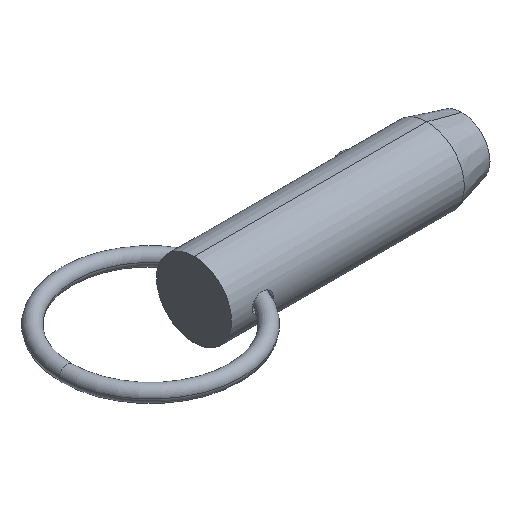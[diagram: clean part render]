
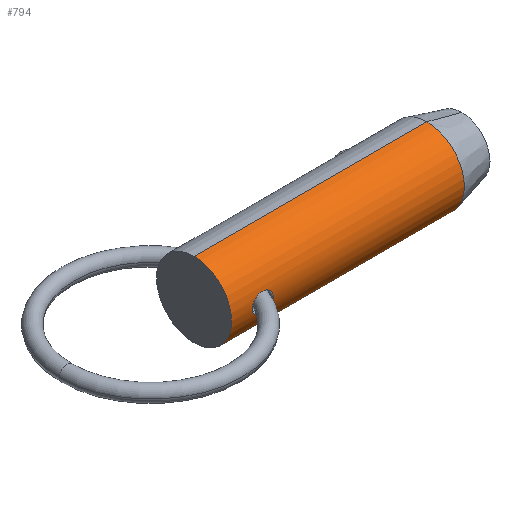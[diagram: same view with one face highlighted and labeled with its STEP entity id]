
A CAD part, isometric view. The second image highlights one B-rep face of the part: STEP entity #794.
In plain terms, the highlighted cylindrical face has radius 7.11 mm (diameter 14.22 mm), a partial arc.
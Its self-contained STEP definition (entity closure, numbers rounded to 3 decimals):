
#3 = B_SPLINE_CURVE_WITH_KNOTS ( 'NONE', 3,
 ( #345, #63, #134, #884, #619, #627, #268, #9, #211, #279, #68, #632, #85, #817, #763, #831, #14, #220, #72, #342, #491, #624, #822, #420, #700, #473 ),
 .UNSPECIFIED., .F., .F.,
 ( 4, 2, 2, 2, 2, 2, 2, 2, 2, 2, 2, 2, 4 ),
 ( 0., 0.001, 0.001, 0.002, 0.003, 0.003, 0.003, 0.004, 0.004, 0.005, 0.005, 0.006, 0.006 ),
 .UNSPECIFIED. ) ;
#4 = DIRECTION ( 'NONE',  ( 1., 0., 0. ) ) ;
#9 = CARTESIAN_POINT ( 'NONE',  ( 4.8, -6.969, 1.419 ) ) ;
#14 = CARTESIAN_POINT ( 'NONE',  ( 6.932, -6.93, 1.591 ) ) ;
#21 = CARTESIAN_POINT ( 'NONE',  ( 0., 0., 7.11 ) ) ;
#26 = CARTESIAN_POINT ( 'NONE',  ( 3.936, -7.11, 0. ) ) ;
#35 = EDGE_CURVE ( 'NONE', #532, #871, #809, .T. ) ;
#37 = VERTEX_POINT ( 'NONE', #688 ) ;
#47 = ORIENTED_EDGE ( 'NONE', *, *, #711, .F. ) ;
#49 = CIRCLE ( 'NONE', #363, 7.11 ) ;
#52 = VECTOR ( 'NONE', #137, 1000. ) ;
#58 = DIRECTION ( 'NONE',  ( 1., 0., 0. ) ) ;
#63 = CARTESIAN_POINT ( 'NONE',  ( 3.936, -7.11, 0.248 ) ) ;
#68 = CARTESIAN_POINT ( 'NONE',  ( 5.485, -6.903, 1.705 ) ) ;
#72 = CARTESIAN_POINT ( 'NONE',  ( 7.246, -6.972, 1.397 ) ) ;
#85 = CARTESIAN_POINT ( 'NONE',  ( 5.849, -6.886, 1.77 ) ) ;
#86 = CARTESIAN_POINT ( 'NONE',  ( 7.248, -6.972, -1.395 ) ) ;
#90 = CARTESIAN_POINT ( 'NONE',  ( 7.907, -7.107, -0.247 ) ) ;
#95 = CARTESIAN_POINT ( 'NONE',  ( 4.007, -7.096, -0.494 ) ) ;
#133 = VERTEX_POINT ( 'NONE', #148 ) ;
#134 = CARTESIAN_POINT ( 'NONE',  ( 4.007, -7.096, 0.495 ) ) ;
#137 = DIRECTION ( 'NONE',  ( 1., 0., 0. ) ) ;
#139 = FACE_BOUND ( 'NONE', #181, .T. ) ;
#143 = DIRECTION ( 'NONE',  ( 0., 0., -1. ) ) ;
#148 = CARTESIAN_POINT ( 'NONE',  ( 7.92, -7.11, 0. ) ) ;
#150 = CIRCLE ( 'NONE', #255, 7.11 ) ;
#154 = CARTESIAN_POINT ( 'NONE',  ( 44.136, 0., 0. ) ) ;
#155 = CARTESIAN_POINT ( 'NONE',  ( 6.218, -6.882, -1.786 ) ) ;
#161 = CARTESIAN_POINT ( 'NONE',  ( 4.421, -7.025, -1.103 ) ) ;
#181 = EDGE_LOOP ( 'NONE', ( #856, #597 ) ) ;
#211 = CARTESIAN_POINT ( 'NONE',  ( 5.019, -6.942, 1.541 ) ) ;
#215 = DIRECTION ( 'NONE',  ( 1., 0., 0. ) ) ;
#217 = CARTESIAN_POINT ( 'NONE',  ( 7.857, -7.094, -0.489 ) ) ;
#220 = CARTESIAN_POINT ( 'NONE',  ( 7.147, -6.957, 1.468 ) ) ;
#226 = CARTESIAN_POINT ( 'NONE',  ( 5.846, -6.886, -1.77 ) ) ;
#229 = CARTESIAN_POINT ( 'NONE',  ( 6.821, -6.918, -1.64 ) ) ;
#255 = AXIS2_PLACEMENT_3D ( 'NONE', #154, #215, #686 ) ;
#267 = ORIENTED_EDGE ( 'NONE', *, *, #35, .T. ) ;
#268 = CARTESIAN_POINT ( 'NONE',  ( 4.513, -7.01, 1.19 ) ) ;
#279 = CARTESIAN_POINT ( 'NONE',  ( 5.365, -6.911, 1.67 ) ) ;
#287 = CARTESIAN_POINT ( 'NONE',  ( 7.92, -7.11, -0.124 ) ) ;
#292 = CARTESIAN_POINT ( 'NONE',  ( 5.361, -6.912, -1.669 ) ) ;
#314 = CARTESIAN_POINT ( 'NONE',  ( 0., 0., -7.11 ) ) ;
#336 = VERTEX_POINT ( 'NONE', #638 ) ;
#340 = VERTEX_POINT ( 'NONE', #21 ) ;
#342 = CARTESIAN_POINT ( 'NONE',  ( 7.429, -7.003, 1.234 ) ) ;
#345 = CARTESIAN_POINT ( 'NONE',  ( 3.936, -7.11, 0. ) ) ;
#351 = FACE_OUTER_BOUND ( 'NONE', #883, .T. ) ;
#353 = CARTESIAN_POINT ( 'NONE',  ( 7.67, -7.05, -0.946 ) ) ;
#359 = CARTESIAN_POINT ( 'NONE',  ( 5.019, -6.944, -1.531 ) ) ;
#363 = AXIS2_PLACEMENT_3D ( 'NONE', #554, #58, #143 ) ;
#365 = CARTESIAN_POINT ( 'NONE',  ( 3.936, -7.11, -0.248 ) ) ;
#369 = CARTESIAN_POINT ( 'NONE',  ( 7.819, -7.085, -0.608 ) ) ;
#381 = DIRECTION ( 'NONE',  ( 0., 0., -1. ) ) ;
#408 = LINE ( 'NONE', #478, #527 ) ;
#420 = CARTESIAN_POINT ( 'NONE',  ( 7.869, -7.096, 0.496 ) ) ;
#422 = CARTESIAN_POINT ( 'NONE',  ( 7.522, -7.018, -1.15 ) ) ;
#432 = DIRECTION ( 'NONE',  ( 1., 0., 0. ) ) ;
#433 = CARTESIAN_POINT ( 'NONE',  ( 4.259, -7.051, -0.917 ) ) ;
#473 = CARTESIAN_POINT ( 'NONE',  ( 7.92, -7.11, 0. ) ) ;
#478 = CARTESIAN_POINT ( 'NONE',  ( 0., 0., 7.11 ) ) ;
#482 = EDGE_CURVE ( 'NONE', #133, #336, #819, .T. ) ;
#486 = CARTESIAN_POINT ( 'NONE',  ( 6.467, -6.89, -1.756 ) ) ;
#491 = CARTESIAN_POINT ( 'NONE',  ( 7.513, -7.019, 1.141 ) ) ;
#497 = CARTESIAN_POINT ( 'NONE',  ( 5.723, -6.89, -1.754 ) ) ;
#501 = CARTESIAN_POINT ( 'NONE',  ( 4.701, -6.983, -1.341 ) ) ;
#515 = CARTESIAN_POINT ( 'NONE',  ( 44.136, 0., -7.11 ) ) ;
#527 = VECTOR ( 'NONE', #4, 1000. ) ;
#532 = VERTEX_POINT ( 'NONE', #314 ) ;
#548 = CARTESIAN_POINT ( 'NONE',  ( 0., 0., -7.11 ) ) ;
#554 = CARTESIAN_POINT ( 'NONE',  ( 0., 0., 0. ) ) ;
#597 = ORIENTED_EDGE ( 'NONE', *, *, #482, .T. ) ;
#602 = ORIENTED_EDGE ( 'NONE', *, *, #636, .T. ) ;
#619 = CARTESIAN_POINT ( 'NONE',  ( 4.261, -7.051, 0.92 ) ) ;
#624 = CARTESIAN_POINT ( 'NONE',  ( 7.657, -7.048, 0.943 ) ) ;
#627 = CARTESIAN_POINT ( 'NONE',  ( 4.424, -7.024, 1.106 ) ) ;
#632 = CARTESIAN_POINT ( 'NONE',  ( 5.727, -6.89, 1.755 ) ) ;
#633 = CARTESIAN_POINT ( 'NONE',  ( 7.147, -6.957, -1.468 ) ) ;
#636 = EDGE_CURVE ( 'NONE', #340, #532, #49, .T. ) ;
#638 = CARTESIAN_POINT ( 'NONE',  ( 3.936, -7.11, 0. ) ) ;
#686 = DIRECTION ( 'NONE',  ( 0., 0., -1. ) ) ;
#688 = CARTESIAN_POINT ( 'NONE',  ( 44.136, 0., 7.11 ) ) ;
#700 = CARTESIAN_POINT ( 'NONE',  ( 7.92, -7.11, 0.248 ) ) ;
#701 = CARTESIAN_POINT ( 'NONE',  ( 7.92, -7.11, 0. ) ) ;
#706 = CARTESIAN_POINT ( 'NONE',  ( 4.186, -7.064, -0.815 ) ) ;
#711 = EDGE_CURVE ( 'NONE', #37, #871, #150, .T. ) ;
#713 = CARTESIAN_POINT ( 'NONE',  ( 0., 0., 0. ) ) ;
#749 = AXIS2_PLACEMENT_3D ( 'NONE', #713, #432, #381 ) ;
#763 = CARTESIAN_POINT ( 'NONE',  ( 6.469, -6.89, 1.755 ) ) ;
#764 = EDGE_CURVE ( 'NONE', #336, #133, #3, .T. ) ;
#771 = CARTESIAN_POINT ( 'NONE',  ( 5.481, -6.903, -1.704 ) ) ;
#774 = CARTESIAN_POINT ( 'NONE',  ( 4.509, -7.011, -1.187 ) ) ;
#778 = EDGE_CURVE ( 'NONE', #340, #37, #408, .T. ) ;
#794 = ADVANCED_FACE ( 'NONE', ( #351, #139 ), #845, .T. ) ;
#805 = ORIENTED_EDGE ( 'NONE', *, *, #778, .F. ) ;
#809 = LINE ( 'NONE', #548, #52 ) ;
#817 = CARTESIAN_POINT ( 'NONE',  ( 6.217, -6.882, 1.786 ) ) ;
#819 = B_SPLINE_CURVE_WITH_KNOTS ( 'NONE', 3,
 ( #701, #287, #90, #217, #369, #353, #422, #86, #633, #837, #229, #486, #155, #226, #497, #771, #292, #847, #359, #842, #501, #774, #161, #433, #706, #95, #365, #26 ),
 .UNSPECIFIED., .F., .F.,
 ( 4, 2, 2, 2, 2, 2, 2, 2, 2, 2, 2, 2, 2, 4 ),
 ( 0.006, 0.007, 0.007, 0.008, 0.008, 0.009, 0.009, 0.01, 0.01, 0.01, 0.011, 0.011, 0.011, 0.012 ),
 .UNSPECIFIED. ) ;
#822 = CARTESIAN_POINT ( 'NONE',  ( 7.718, -7.062, 0.836 ) ) ;
#831 = CARTESIAN_POINT ( 'NONE',  ( 6.818, -6.918, 1.641 ) ) ;
#837 = CARTESIAN_POINT ( 'NONE',  ( 6.933, -6.93, -1.59 ) ) ;
#842 = CARTESIAN_POINT ( 'NONE',  ( 4.805, -6.969, -1.41 ) ) ;
#845 = CYLINDRICAL_SURFACE ( 'NONE', #749, 7.11 ) ;
#847 = CARTESIAN_POINT ( 'NONE',  ( 5.13, -6.932, -1.582 ) ) ;
#856 = ORIENTED_EDGE ( 'NONE', *, *, #764, .T. ) ;
#871 = VERTEX_POINT ( 'NONE', #515 ) ;
#883 = EDGE_LOOP ( 'NONE', ( #805, #602, #267, #47 ) ) ;
#884 = CARTESIAN_POINT ( 'NONE',  ( 4.188, -7.064, 0.819 ) ) ;
